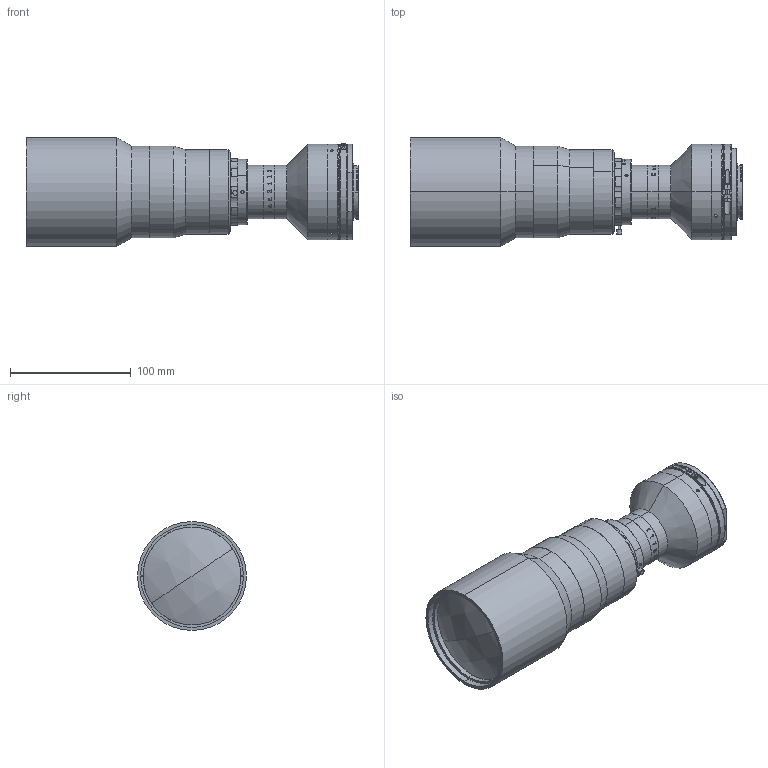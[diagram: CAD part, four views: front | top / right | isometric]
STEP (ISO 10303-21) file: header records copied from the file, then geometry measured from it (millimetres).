
FILE_DESCRIPTION (( 'STEP AP203' ), '1' );
FILE_NAME ('XF-PTL06529-F-VI.STEP', '2020-05-09T02:03:20', ( 'puyufan' ), ( '' ), 'SwSTEP 2.0', 'SolidWorks 2014', '' );
FILE_SCHEMA (( 'CONFIG_CONTROL_DESIGN' ));
Length unit declared in the file: millimetre
Products named in the file (1): XF-PTL06529-F-VI
Bounding box: 274.46 x 90 x 90 mm (x, y, z)
Surface area: 101512.9 mm2 (no closed solid volume)
Topology: 0 solids, 41 shells, 267 faces, 1355 edges, 1115 vertices
Faces by surface type: cylinder 122, plane 79, cone 47, torus 8, bspline 7, sphere 4
Entity records: 21536 total; most frequent: CARTESIAN_POINT 11460, DIRECTION 1939, ORIENTED_EDGE 1820, EDGE_CURVE 1349, VERTEX_POINT 1115, AXIS2_PLACEMENT_3D 747, CIRCLE 486, VECTOR 445
